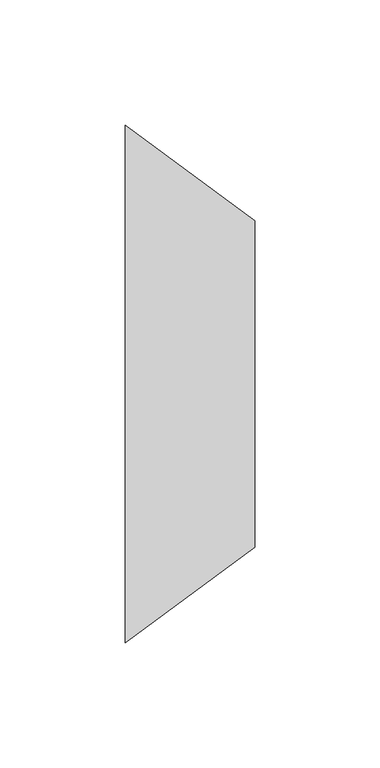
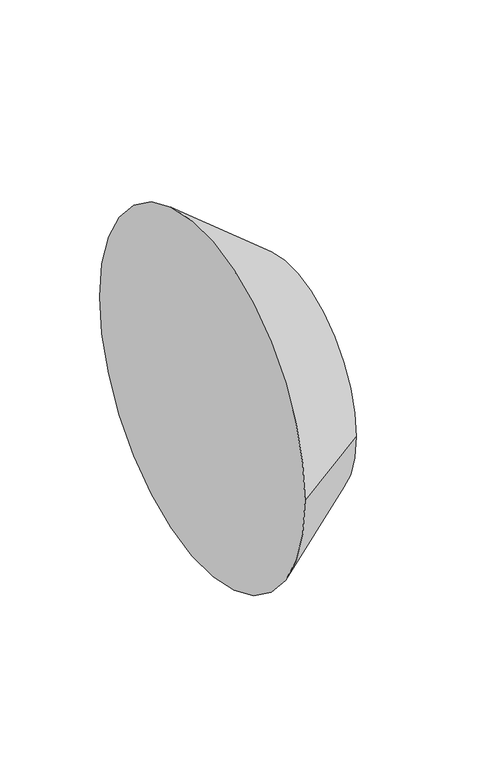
"""IFC4 building model written with IfcOpenShell, lengths in millimetres: pipe fitting geometry, M_Transición - Genérica : Estándar."""

from ifc_helpers import new_model, si_unit, frame, origin, place, context, project, spatial, circle_curve, source, transform, mapped, element, save
from ifc_brep_helpers import plane_surface, spline_surface, advanced_brep


def pipe_fitting_167eaa25(model_context):
    return source(origin(), model_context, "Body", "AdvancedBrep", [
        advanced_brep(
        [(51.59375, -65.0792882, -1.9826671), (51.59375, 65.0957118, -1.9826671), (0.0, -103.1875, 0.0), (0.0, 103.1875, 0.0)],
        [
            (0, 1, circle_curve(frame((51.59375, 0.0082118, -1.9826671), z_axis=(1.0, 0.0, 0.0), x_axis=(0.0, 1.0, 0.0)), 65.0875)),
            (1, 0, circle_curve(frame((51.59375, 0.0082118, -1.9826671), z_axis=(1.0, 0.0, 0.0), x_axis=(0.0, 1.0, 0.0)), 65.0875)),
            (2, 3, circle_curve(frame((0.0, 0.0, 0.0), z_axis=(-1.0, 0.0, 0.0), x_axis=(0.0, 1.0, 0.0)), 103.1875)),
            (3, 2, circle_curve(frame((0.0, 0.0, 0.0), z_axis=(-1.0, 0.0, 0.0), x_axis=(0.0, 1.0, 0.0)), 103.1875)),
            (3, 1),
            (0, 2),
        ],
        [
            plane_surface(frame((51.59375, 0.0082118, -1.9826671), z_axis=(1.0, 0.0, 0.0), x_axis=(0.0, 0.0, -1.0))),
            plane_surface(frame((0.0, 0.0, 0.0), z_axis=(-1.0, 0.0, 0.0), x_axis=(0.0, 0.0, -1.0))),
            spline_surface(2, 1, [[(0.0, -103.1875, 0.0), (51.59375, -65.0792882, -1.9826671)], [(0.0, -103.1875, -103.1875), (51.59375, -65.0792882, -67.07016709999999)], [(0.0, 0.0, -103.1875), (51.59375, 0.0082118, -67.07016709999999)], [(0.0, 103.1875, -103.1875), (51.59375, 65.09571179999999, -67.07016709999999)], [(0.0, 103.1875, 0.0), (51.59375, 65.0957118, -1.9826671)]], [3, 2, 3], [2, 2], [0.0, 1.0, 2.0], [0.0, 1.0], weights=[[1.0, 1.0], [0.7071067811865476, 0.7071067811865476], [1.0, 1.0], [0.7071067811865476, 0.7071067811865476], [1.0, 1.0]]),
            spline_surface(2, 1, [[(0.0, 103.1875, 0.0), (51.59375, 65.0957118, -1.9826671)], [(0.0, 103.1875, 103.1875), (51.59375, 65.0957118, 63.104832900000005)], [(0.0, 0.0, 103.1875), (51.59375, 0.0082118, 63.104832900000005)], [(0.0, -103.1875, 103.1875), (51.59375, -65.07928820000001, 63.104832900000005)], [(0.0, -103.1875, 0.0), (51.59375, -65.0792882, -1.9826671)]], [3, 2, 3], [2, 2], [0.0, 1.0, 2.0], [0.0, 1.0], weights=[[1.0, 1.0], [0.7071067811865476, 0.7071067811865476], [1.0, 1.0], [0.7071067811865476, 0.7071067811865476], [1.0, 1.0]]),
        ],
        [
            (0, [[1, 2]]),
            (1, [[3, 4]]),
            (2, [[-4, 5, -1, 6]]),
            (3, [[-3, -6, -2, -5]]),
        ],
    ),
    ])


if __name__ == "__main__":
    model = new_model("IFC4")
    model_context = context("Model", 3, world=origin())
    ifc_project = project(units=[si_unit("LENGTHUNIT", "METRE", prefix="MILLI")], contexts=[model_context])
    site = spatial("IfcSite", under=ifc_project)
    building = spatial("IfcBuilding", under=site)
    placement = place(None, origin())
    pipe_fitting_shape = pipe_fitting_167eaa25(model_context)
    element("IfcPipeFitting", 1, ObjectType="M_Transición - Genérica : Estándar", at=placement, inside=building, context=model_context, shape_type="MappedRepresentation", body=[
        mapped(pipe_fitting_shape, transform((0.0, 0.0, 0.0), x_axis=(1.0, 0.0, 0.0), y_axis=(0.0, 1.0, 0.0), z_axis=(0.0, 0.0, 1.0))),
    ])
    save(model, "model.ifc")
